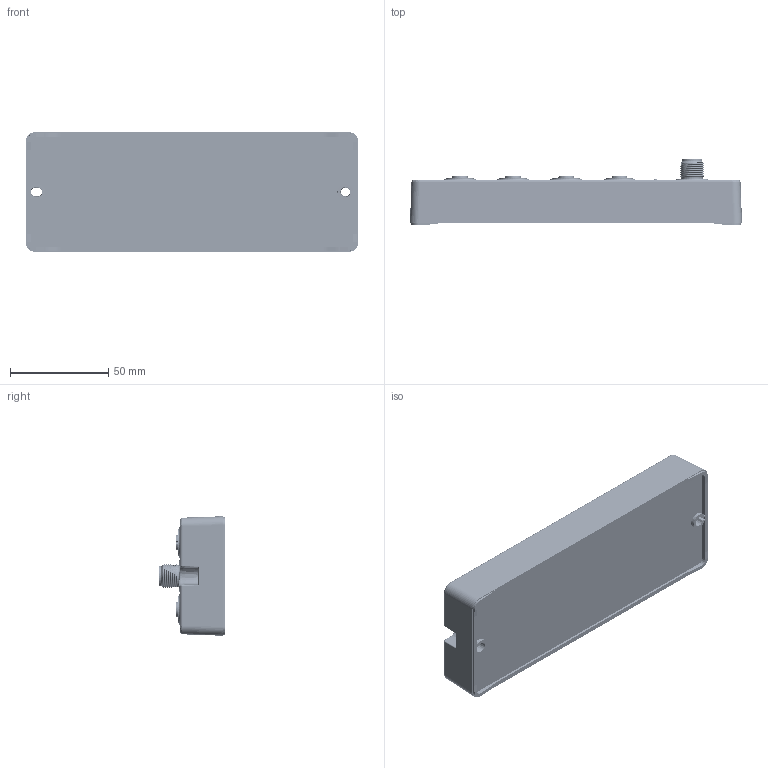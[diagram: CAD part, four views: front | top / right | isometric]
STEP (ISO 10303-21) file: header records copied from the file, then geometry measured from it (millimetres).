
FILE_DESCRIPTION(/* description */ (''),/* implementation_level */ '2;1');
FILE_NAME(/* name */ 'IP67_HUB02-20250428.stp',/* time_stamp */ '2025-04-28T14:27:38+08:00',/* author */ (''),/* organization */ (''),/* preprocessor_version */ 'ST-DEVELOPER v16.7',/* originating_system */ 'SIEMENS PLM Software NX 12.0',/* authorisation */ '');
FILE_SCHEMA (('AUTOMOTIVE_DESIGN { 1 0 10303 214 3 1 1 1 }'));
Products named in the file (1): jq025118E077ezve
Bounding box: 168.77 x 33.55 x 60.77 mm (x, y, z)
Surface area: 46343.7 mm2
Topology: 5 solids, 6 shells, 3225 faces, 8281 edges, 5301 vertices
Faces by surface type: plane 1323, cylinder 939, extrusion 309, cone 302, bspline 154, sphere 137, torus 61
Full cylindrical faces by diameter (mm): 1 x5, 1.1 x40, 1.3 x40, 1.5 x5, 1.7 x5, 1.8 x5, 2 x40, 2.1 x40, 2.15 x40, 4.5 x1, 8.35 x1, 8.4 x1, 9.5 x1, 9.7 x1, 10.5 x1, 10.92 x56, 11 x1, 12.2 x8, 14 x8
Entity records: 121584 total; most frequent: CARTESIAN_POINT 49962, ORIENTED_EDGE 14514, DIRECTION 14032, EDGE_CURVE 7257, AXIS2_PLACEMENT_3D 4993, VERTEX_POINT 4890, VECTOR 4046, EDGE_LOOP 3963
